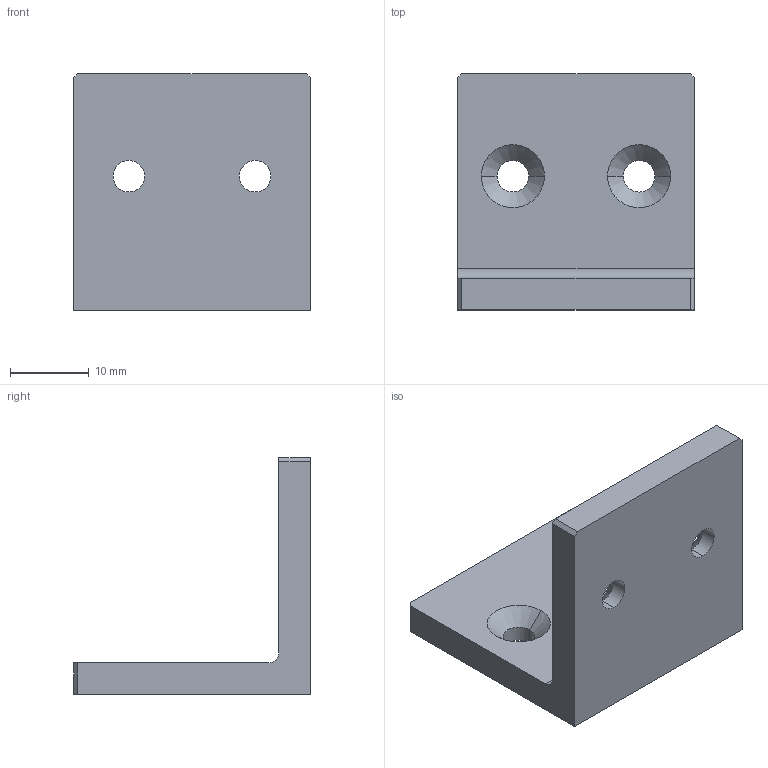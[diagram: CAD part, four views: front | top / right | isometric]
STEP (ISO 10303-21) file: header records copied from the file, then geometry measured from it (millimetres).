
FILE_DESCRIPTION (( 'STEP AP214' ), '1' );
FILE_NAME ('30mm_4mm_DIN963_DIN965.STEP', '2025-01-06T04:16:50', ( '' ), ( '' ), 'SwSTEP 2.0', 'SolidWorks 2025', '' );
FILE_SCHEMA (( 'AUTOMOTIVE_DESIGN' ));
Length unit declared in the file: millimetre
Products named in the file (1): 30mm_4mm_DIN963_DIN965
Bounding box: 30 x 30 x 30 mm (x, y, z)
Volume: 6393 mm3; surface area: 4089.4 mm2
Topology: 1 solids, 1 shells, 29 faces, 73 edges, 46 vertices
Faces by surface type: plane 12, cylinder 9, cone 8
Entity records: 908 total; most frequent: DIRECTION 159, CARTESIAN_POINT 149, ORIENTED_EDGE 146, EDGE_CURVE 73, AXIS2_PLACEMENT_3D 56, LINE 47, VECTOR 47, VERTEX_POINT 46
